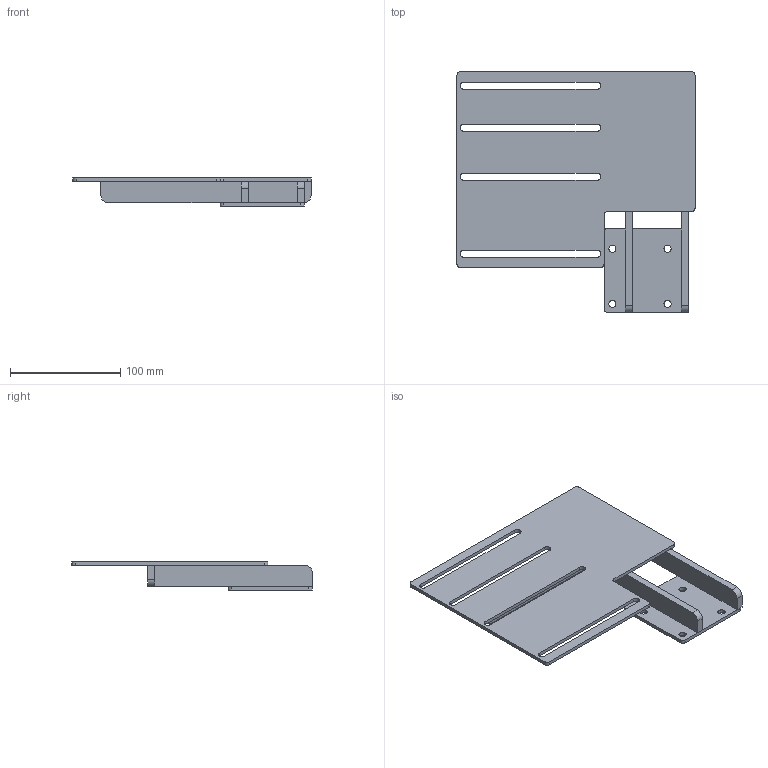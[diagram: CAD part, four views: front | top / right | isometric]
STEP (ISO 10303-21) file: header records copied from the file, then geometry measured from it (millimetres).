
FILE_DESCRIPTION (( 'STEP AP214' ), '1' );
FILE_NAME ('237603.STEP', '2018-07-26T13:59:31', ( 'Windows User' ), ( 'IT' ), 'SwSTEP 2.0', 'SolidWorks 2017', '' );
FILE_SCHEMA (( 'AUTOMOTIVE_DESIGN' ));
Length unit declared in the file: inch
Products named in the file (5): 237763_Default<As Machined>; 237761; 237762_Default<As Machined>; 237764_Default<As Machined>; 237603
Assembly tree (5 placements, depth 2):
  237603
    237761
    237764_Default<As Machined>
    237762_Default<As Machined>  x2
    237763_Default<As Machined>
Bounding box: 215.9 x 218.19 x 25.4 mm (x, y, z)
Volume: 173360 mm3; surface area: 104844.1 mm2
Topology: 5 solids, 5 shells, 74 faces, 192 edges, 128 vertices
Faces by surface type: plane 40, cylinder 34
Entity records: 2361 total; most frequent: DIRECTION 393, CARTESIAN_POINT 370, ORIENTED_EDGE 354, EDGE_CURVE 177, AXIS2_PLACEMENT_3D 141, VERTEX_POINT 118, VECTOR 111, LINE 111
